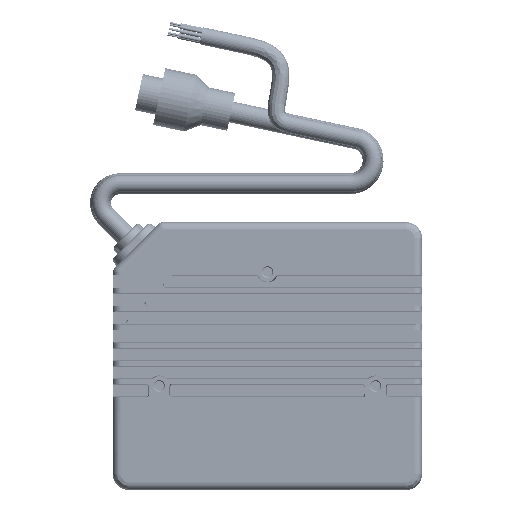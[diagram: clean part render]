
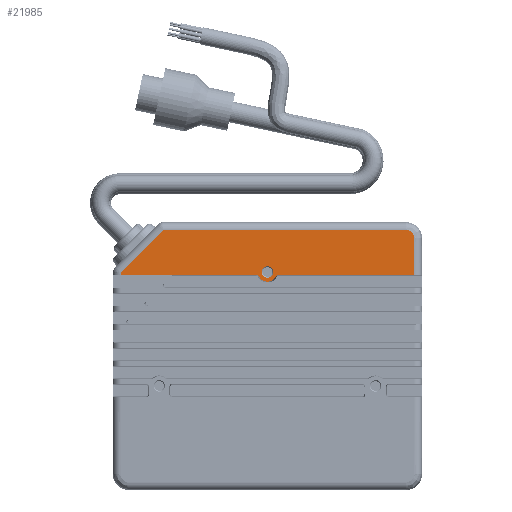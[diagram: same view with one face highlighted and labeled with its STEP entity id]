
A CAD part, top view. The second image highlights one B-rep face of the part: STEP entity #21985.
In plain terms, the highlighted planar face has unit normal (0, 0, 1) as drawn and (0, -1, 0) by its records, which use the part's own axes.
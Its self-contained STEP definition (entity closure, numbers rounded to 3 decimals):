
#2134=DIRECTION('',(0.,0.,1.));
#2135=VECTOR('',#2134,62.983);
#2136=CARTESIAN_POINT('',(32.768,0.,
-36.));
#2137=LINE('',#2136,#2135);
#2185=DIRECTION('',(1.,0.,0.));
#2186=VECTOR('',#2185,9.668);
#2187=CARTESIAN_POINT('',(21.1,0.,-38.));
#2188=LINE('',#2187,#2186);
#2212=DIRECTION('',(0.707,0.,-0.707));
#2213=VECTOR('',#2212,15.581);
#2214=CARTESIAN_POINT('',(21.751,0.,38.));
#2215=LINE('',#2214,#2213);
#2219=CARTESIAN_POINT('',(30.768,0.,
-36.));
#2220=DIRECTION('',(0.,1.,0.));
#2221=DIRECTION('',(1.,0.,0.));
#2222=AXIS2_PLACEMENT_3D('',#2219,#2220,#2221);
#2227=CARTESIAN_POINT('',(21.1,0.,
-2.765));
#2228=CARTESIAN_POINT('',(21.1,0.,
-2.689));
#2229=CARTESIAN_POINT('',(21.073,0.,
-2.546));
#2230=CARTESIAN_POINT('',(20.955,0.,
-2.354));
#2231=CARTESIAN_POINT('',(20.84,0.,
-2.265));
#2232=CARTESIAN_POINT('',(20.771,0.,
-2.231));
#2237=CARTESIAN_POINT('',(21.9,0.,0.));
#2238=DIRECTION('',(0.,1.,0.));
#2239=DIRECTION('',(-0.451,0.,-0.892));
#2240=AXIS2_PLACEMENT_3D('',#2237,#2238,#2239);
#2245=CARTESIAN_POINT('',(20.771,0.,2.231));
#2246=CARTESIAN_POINT('',(20.84,0.,2.265));
#2247=CARTESIAN_POINT('',(20.955,0.,
2.354));
#2248=CARTESIAN_POINT('',(21.073,0.,2.546));
#2249=CARTESIAN_POINT('',(21.1,0.,
2.688));
#2250=CARTESIAN_POINT('',(21.1,0.,
2.765));
#2255=DIRECTION('',(0.,0.,1.));
#2256=VECTOR('',#2255,35.235);
#2257=CARTESIAN_POINT('',(21.1,0.,
2.765));
#2258=LINE('',#2257,#2256);
#2262=CARTESIAN_POINT('',(21.9,0.,0.));
#2263=DIRECTION('',(0.,-1.,0.));
#2264=DIRECTION('',(0.41,0.,-0.912));
#2265=AXIS2_PLACEMENT_3D('',#2262,#2263,#2264);
#2270=CARTESIAN_POINT('',(21.9,0.,0.));
#2271=DIRECTION('',(0.,-1.,0.));
#2272=DIRECTION('',(1.,0.,0.));
#2273=AXIS2_PLACEMENT_3D('',#2270,#2271,#2272);
#2278=CARTESIAN_POINT('',(21.9,0.,0.));
#2279=DIRECTION('',(0.,-1.,0.));
#2280=DIRECTION('',(0.,0.,1.));
#2281=AXIS2_PLACEMENT_3D('',#2278,#2279,#2280);
#2286=CARTESIAN_POINT('',(21.9,0.,0.));
#2287=DIRECTION('',(0.,-1.,0.));
#2288=DIRECTION('',(-1.,0.,0.));
#2289=AXIS2_PLACEMENT_3D('',#2286,#2287,#2288);
#2294=CARTESIAN_POINT('',(21.9,0.,0.));
#2295=DIRECTION('',(0.,-1.,0.));
#2296=DIRECTION('',(0.,0.,-1.));
#2297=AXIS2_PLACEMENT_3D('',#2294,#2295,#2296);
#2340=DIRECTION('',(-1.,0.,0.));
#2341=VECTOR('',#2340,0.651);
#2342=CARTESIAN_POINT('',(21.751,0.,38.));
#2343=LINE('',#2342,#2341);
#2472=DIRECTION('',(0.,0.,-1.));
#2473=VECTOR('',#2472,35.235);
#2474=CARTESIAN_POINT('',(21.1,0.,
-2.765));
#2475=LINE('',#2474,#2473);
#18508=CARTESIAN_POINT('',(32.768,0.,26.983));
#18509=VERTEX_POINT('',#18508);
#18512=CARTESIAN_POINT('',(32.768,0.,
-36.));
#18513=VERTEX_POINT('',#18512);
#18541=CARTESIAN_POINT('',(30.768,0.,
-38.));
#18542=VERTEX_POINT('',#18541);
#18543=CARTESIAN_POINT('',(21.1,0.,-38.));
#18544=VERTEX_POINT('',#18543);
#18584=CARTESIAN_POINT('',(21.751,0.,38.));
#18585=VERTEX_POINT('',#18584);
#18586=CARTESIAN_POINT('',(21.1,0.,
-2.765));
#18587=VERTEX_POINT('',#18586);
#18588=VERTEX_POINT('',#2232);
#18589=CARTESIAN_POINT('',(20.771,0.,2.231));
#18590=VERTEX_POINT('',#18589);
#18591=VERTEX_POINT('',#2250);
#18592=CARTESIAN_POINT('',(21.1,0.,38.));
#18593=VERTEX_POINT('',#18592);
#18594=CARTESIAN_POINT('',(22.516,0.,
-1.368));
#18595=CARTESIAN_POINT('',(23.4,0.,0.));
#18596=VERTEX_POINT('',#18594);
#18597=VERTEX_POINT('',#18595);
#18598=CARTESIAN_POINT('',(21.9,0.,1.5));
#18599=VERTEX_POINT('',#18598);
#18600=CARTESIAN_POINT('',(20.4,0.,0.));
#18601=VERTEX_POINT('',#18600);
#18602=CARTESIAN_POINT('',(21.9,0.,-1.5));
#18603=VERTEX_POINT('',#18602);
#21949=CARTESIAN_POINT('',(0.,0.,0.));
#21950=DIRECTION('',(0.,1.,0.));
#21951=DIRECTION('',(0.,0.,1.));
#21952=AXIS2_PLACEMENT_3D('',#21949,#21950,#21951);
#21953=PLANE('',#21952);
#21955=ORIENTED_EDGE('',*,*,#21954,.T.);
#21956=ORIENTED_EDGE('',*,*,#21857,.F.);
#21957=ORIENTED_EDGE('',*,*,#21928,.T.);
#21958=ORIENTED_EDGE('',*,*,#21939,.F.);
#21960=ORIENTED_EDGE('',*,*,#21959,.F.);
#21962=ORIENTED_EDGE('',*,*,#21961,.T.);
#21964=ORIENTED_EDGE('',*,*,#21963,.T.);
#21966=ORIENTED_EDGE('',*,*,#21965,.T.);
#21968=ORIENTED_EDGE('',*,*,#21967,.T.);
#21970=ORIENTED_EDGE('',*,*,#21969,.F.);
#21971=EDGE_LOOP('',(#21955,#21956,#21957,#21958,#21960,#21962,#21964,#21966,
#21968,#21970));
#21972=FACE_OUTER_BOUND('',#21971,.F.);
#21974=ORIENTED_EDGE('',*,*,#21973,.T.);
#21976=ORIENTED_EDGE('',*,*,#21975,.T.);
#21978=ORIENTED_EDGE('',*,*,#21977,.T.);
#21980=ORIENTED_EDGE('',*,*,#21979,.T.);
#21982=ORIENTED_EDGE('',*,*,#21981,.T.);
#21983=EDGE_LOOP('',(#21974,#21976,#21978,#21980,#21982));
#21984=FACE_BOUND('',#21983,.F.);
#21985=ADVANCED_FACE('',(#21972,#21984),#21953,.F.);
#2223=CIRCLE('',#2222,2.);
#2233=B_SPLINE_CURVE_WITH_KNOTS('',3,(#2227,#2228,#2229,#2230,#2231,#2232),
.UNSPECIFIED.,.F.,.F.,(4,1,1,4),(0.,0.333,0.667,1.),
.UNSPECIFIED.);
#2241=CIRCLE('',#2240,2.5);
#2251=B_SPLINE_CURVE_WITH_KNOTS('',3,(#2245,#2246,#2247,#2248,#2249,#2250),
.UNSPECIFIED.,.F.,.F.,(4,1,1,4),(0.,0.333,0.667,1.),
.UNSPECIFIED.);
#2266=CIRCLE('',#2265,1.5);
#2274=CIRCLE('',#2273,1.5);
#2282=CIRCLE('',#2281,1.5);
#2290=CIRCLE('',#2289,1.5);
#2298=CIRCLE('',#2297,1.5);
#21857=EDGE_CURVE('',#18513,#18509,#2137,.T.);
#21928=EDGE_CURVE('',#18513,#18542,#2223,.T.);
#21939=EDGE_CURVE('',#18544,#18542,#2188,.T.);
#21954=EDGE_CURVE('',#18585,#18509,#2215,.T.);
#21959=EDGE_CURVE('',#18587,#18544,#2475,.T.);
#21961=EDGE_CURVE('',#18587,#18588,#2233,.T.);
#21963=EDGE_CURVE('',#18588,#18590,#2241,.T.);
#21965=EDGE_CURVE('',#18590,#18591,#2251,.T.);
#21967=EDGE_CURVE('',#18591,#18593,#2258,.T.);
#21969=EDGE_CURVE('',#18585,#18593,#2343,.T.);
#21973=EDGE_CURVE('',#18596,#18597,#2266,.T.);
#21975=EDGE_CURVE('',#18597,#18599,#2274,.T.);
#21977=EDGE_CURVE('',#18599,#18601,#2282,.T.);
#21979=EDGE_CURVE('',#18601,#18603,#2290,.T.);
#21981=EDGE_CURVE('',#18603,#18596,#2298,.T.);
